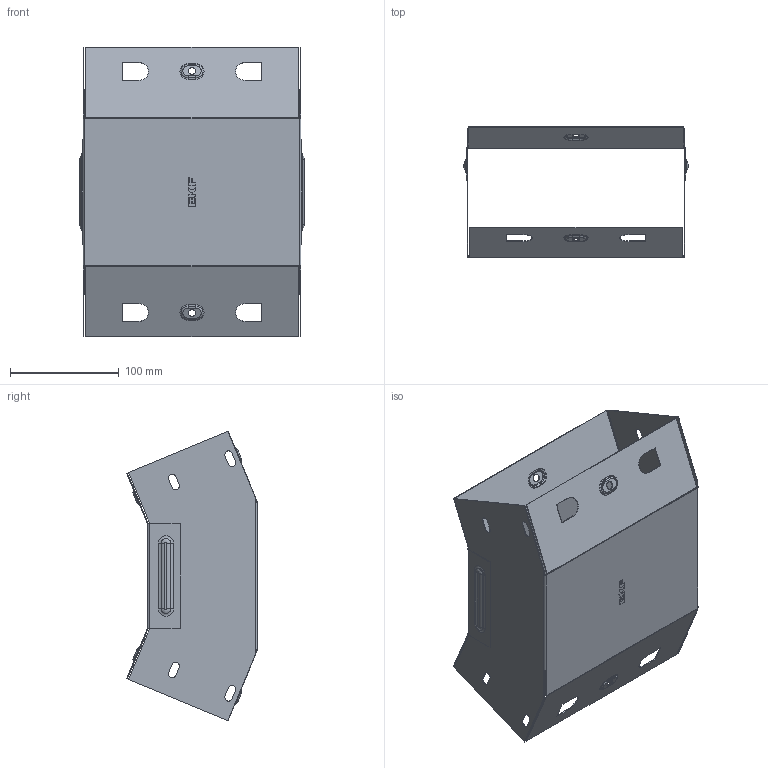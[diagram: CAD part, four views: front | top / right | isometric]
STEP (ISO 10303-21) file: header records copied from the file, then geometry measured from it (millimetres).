
FILE_DESCRIPTION (( 'STEP AP214' ), '1' );
FILE_NAME ('vi45100200_捘.STEP', '2019-06-10T08:30:20', ( '砐錪賧瘔蠈錪 Windows' ), ( '' ), 'SwSTEP 2.0', 'SolidWorks 2018', '' );
FILE_SCHEMA (( 'AUTOMOTIVE_DESIGN' ));
Length unit declared in the file: millimetre
Products named in the file (1): vi45100200_捘
Bounding box: 205.6 x 119.93 x 265.55 mm (x, y, z)
Volume: 114713.4 mm3; surface area: 289465 mm2
Topology: 2 solids, 2 shells, 452 faces, 1164 edges, 744 vertices
Faces by surface type: plane 242, cylinder 128, torus 64, bspline 18
Entity records: 14672 total; most frequent: CARTESIAN_POINT 3380, DIRECTION 2350, ORIENTED_EDGE 2328, EDGE_CURVE 1164, AXIS2_PLACEMENT_3D 787, VECTOR 776, LINE 776, VERTEX_POINT 744
